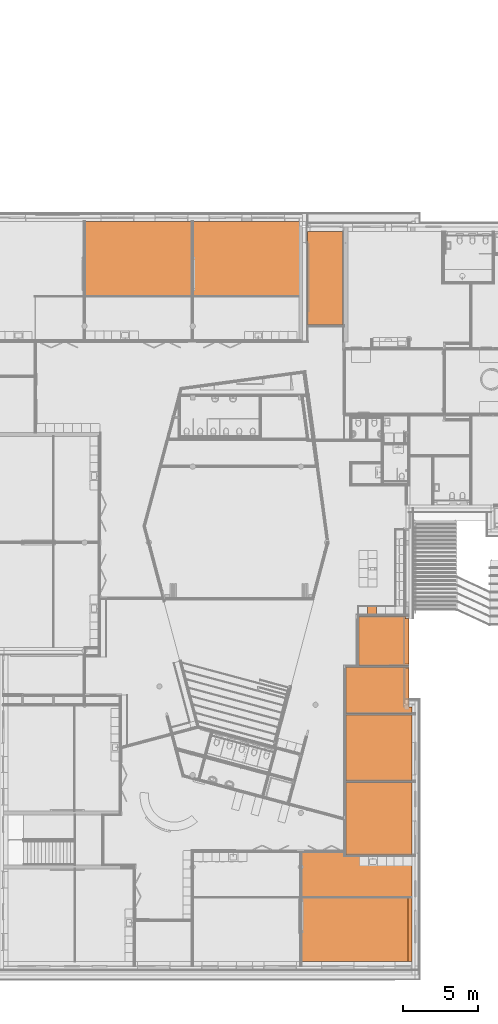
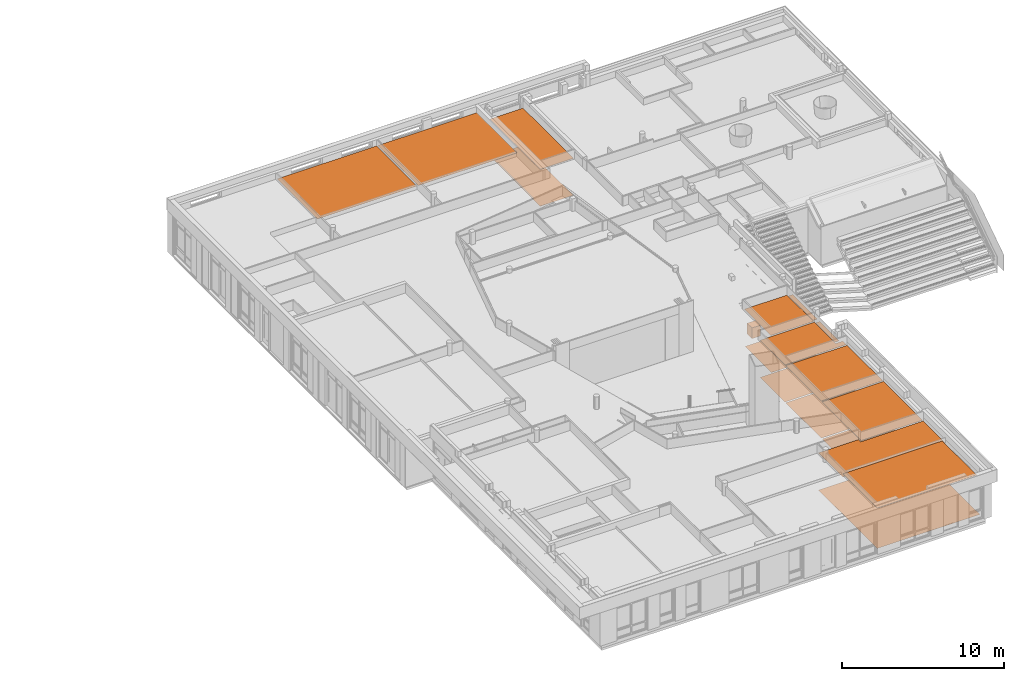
# One storey, part 135 of 167: 17 proxies.
"""IFC2X3 building model written with IfcOpenShell, lengths in millimetres."""

from ifc_helpers import new_model, entity, si_unit, converted_unit, derived_unit, money_unit, direction, frame, origin_with_axes, place, context, subcontext, project, spatial, faceted_brep, material, type_object, element, save


model = new_model("IFC2X3")

# Units and contexts
model_context = context("Model", 3, precision=0.01, world=origin_with_axes(), true_north=direction((0.0, 1.0)))
plan_context = context("Plan", 3, precision=0.01, world=origin_with_axes(), true_north=direction((0.0, 1.0)))
body_context = subcontext(model_context, "Body", "Model", "MODEL_VIEW")
ifc_project = project(units=[si_unit("LENGTHUNIT", "METRE", prefix="MILLI"), si_unit("AREAUNIT", "SQUARE_METRE"), si_unit("VOLUMEUNIT", "CUBIC_METRE"), converted_unit("PLANEANGLEUNIT", "DEGREE", entity("IfcPlaneAngleMeasure", 0.0174532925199), si_unit("PLANEANGLEUNIT", "RADIAN"), dimensions=[0, 0, 0, 0, 0, 0, 0]), si_unit("SOLIDANGLEUNIT", "STERADIAN"), money_unit("EUR"), converted_unit("TIMEUNIT", "Year", entity("IfcTimeMeasure", 31556926.0), si_unit("TIMEUNIT", "SECOND"), dimensions=[0, 0, 1, 0, 0, 0, 0]), si_unit("MASSUNIT", "GRAM", prefix="KILO"), si_unit("THERMODYNAMICTEMPERATUREUNIT", "DEGREE_CELSIUS"), si_unit("LUMINOUSINTENSITYUNIT", "LUMEN"), si_unit("ENERGYUNIT", "JOULE", prefix="MEGA"), derived_unit("THERMALCONDUCTANCEUNIT", [(si_unit("POWERUNIT", "WATT"), 1), (si_unit("LENGTHUNIT", "METRE"), -1), (si_unit("THERMODYNAMICTEMPERATUREUNIT", "KELVIN"), -1)]), derived_unit("SPECIFICHEATCAPACITYUNIT", [(si_unit("ENERGYUNIT", "JOULE"), 1), (si_unit("MASSUNIT", "GRAM", prefix="KILO"), -1), (si_unit("THERMODYNAMICTEMPERATUREUNIT", "KELVIN"), -1)]), derived_unit("MASSDENSITYUNIT", [(si_unit("MASSUNIT", "GRAM", prefix="KILO"), 1), (si_unit("VOLUMEUNIT", "CUBIC_METRE"), -1)])], contexts=[model_context, plan_context])

# Site, building, storey
site_placement = place(None, origin_with_axes())
site = spatial("IfcSite", under=ifc_project, at=site_placement, Name="Site", CompositionType="ELEMENT")
building_placement = place(site_placement, origin_with_axes())
building = spatial("IfcBuilding", under=site, at=building_placement, Name="Naam gebouw", CompositionType="ELEMENT")
storey_placement = place(building_placement, origin_with_axes())
storey = spatial("IfcBuildingStorey", under=building, at=storey_placement, Name="Begane grond", CompositionType="ELEMENT", Elevation=0.0)

# Proxies
ifc_material_1 = material(Name="ALG - BINNENAFWERKING")
building_element_proxy_type_1 = type_object("IfcBuildingElementProxyType", Name="ALG - BINNENAFWERKING 10", PredefinedType="NOTDEFINED")
proxy_1_placement = place(storey_placement, frame((21650.0, 5173.34783859, 2800.0), z_axis=(0.0, 0.0, 1.0), x_axis=(1.0, 0.0, 0.0)))
element("IfcBuildingElementProxy", 1, at=proxy_1_placement, inside=storey, type_object=building_element_proxy_type_1, material=ifc_material_1, Name="23__Vloer-x", context=body_context, shape_type="Brep", body=[
    faceted_brep([(0.0, 0.0, 10.0), (0.0, 0.0, 0.0), (7336.0, 0.0, 0.0), (7336.0, 0.0, 10.0), (0.0, 3000.00005448, 10.0), (0.0, 3000.00005448, 0.0), (2849.99994791, 3000.00005448, 0.0), (2849.99994791, 2726.65215566, 0.0), (7336.0, 2726.65215566, 0.0), (7336.0, 2726.65215566, 10.0), (2849.99994791, 2726.65215566, 10.0), (2849.99994791, 3000.00005448, 10.0)], [[[0, 1, 2, 3]], [[4, 5, 1, 0]], [[1, 5, 6, 7, 8, 2]], [[3, 2, 8, 9]], [[0, 3, 9, 10, 11, 4]], [[11, 6, 5, 4]], [[10, 7, 6, 11]], [[9, 8, 7, 10]]]),
])
proxy_2_placement = place(storey_placement, frame((21650.0, 5173.34783859, 3050.0), z_axis=(0.0, 0.0, 1.0), x_axis=(1.0, 0.0, 0.0)))
element("IfcBuildingElementProxy", 2, at=proxy_2_placement, inside=storey, type_object=building_element_proxy_type_1, material=ifc_material_1, Name="23__Vloer-x", context=body_context, shape_type="Brep", body=[
    faceted_brep([(7100.0, -4273.34783859, 0.0), (7100.0, -25.0, 0.0), (7100.0, -25.0, 10.0), (7100.0, -4273.34783859, 10.0), (0.0, -4273.34783859, 0.0), (0.0, -25.0, 0.0), (0.0, -25.0, 10.0), (0.0, -4273.34783859, 10.0)], [[[0, 1, 2, 3]], [[4, 5, 1, 0]], [[5, 6, 2, 1]], [[3, 2, 6, 7]], [[3, 7, 4, 0]], [[7, 6, 5, 4]]]),
])
proxy_3_placement = place(storey_placement, frame((25434.4423139, 20600.0, 2800.0), z_axis=(0.0, 0.0, 1.0), x_axis=(1.0, 0.0, 0.0)))
element("IfcBuildingElementProxy", 3, at=proxy_3_placement, inside=storey, type_object=building_element_proxy_type_1, material=ifc_material_1, Name="23__Vloer-x", context=body_context, shape_type="Brep", body=[
    faceted_brep([(3065.74775346, 3279.23228815, 10.0), (3058.0721976, 3279.23228815, 10.0), (3065.71860625, 0.0, 10.0), (3065.74775346, 0.0, 10.0), (3065.74775346, 3279.23228815, 0.0), (3058.0721976, 3279.23228815, 0.0), (0.0, 3279.23228815, 0.0), (0.0, 3279.23228815, 10.0), (3065.71860625, 0.0, 0.0), (3065.74775346, 0.0, 0.0), (3033.07226557, 3279.17399411, 0.0), (3040.71853829, 0.0, 0.0), (0.0, 0.0, 0.0), (0.0, 0.0, 10.0), (3040.71853829, 0.0, 10.0), (3033.07226557, 3279.17399411, 10.0)], [[[0, 1, 2, 3]], [[1, 0, 4, 5, 6, 7]], [[5, 8, 2, 1]], [[3, 2, 8, 9]], [[0, 3, 9, 4]], [[9, 8, 5, 4]], [[5, 10, 11, 12, 6]], [[13, 7, 6, 12]], [[14, 15, 1, 7, 13]], [[5, 1, 15, 10]], [[10, 15, 14, 11]], [[12, 11, 14, 13]]]),
])
proxy_4_placement = place(storey_placement, frame((24600.0, 8001.81123862, 2800.0), z_axis=(0.0, 0.0, 1.0), x_axis=(1.0, 0.0, 0.0)))
element("IfcBuildingElementProxy", 4, at=proxy_4_placement, inside=storey, type_object=building_element_proxy_type_1, material=ifc_material_1, Name="23__Vloer-x", context=body_context, shape_type="Brep", body=[
    faceted_brep([(0.0, 0.0, 10.0), (4386.0, 0.0, 10.0), (4386.0, 4823.18869358, 10.0), (0.0, 4823.18869358, 10.0), (0.0, 0.0, 0.0), (4386.0, 0.0, 0.0), (4386.0, 4823.18869358, 0.0), (0.0, 4823.18869358, 0.0)], [[[0, 1, 2, 3]], [[1, 0, 4, 5]], [[6, 2, 1, 5]], [[3, 2, 6, 7]], [[0, 3, 7, 4]], [[7, 6, 5, 4]]]),
    faceted_brep([(0.0, 9323.18881801, 0.0), (4386.0, 9323.18881801, 0.0), (4386.0, 4923.18879193, 0.0), (0.0, 4923.18879193, 0.0), (0.0, 9323.18881801, 10.0), (4386.0, 9323.18881801, 10.0), (4386.0, 4923.18879193, 10.0), (0.0, 4923.18879193, 10.0)], [[[0, 1, 2, 3]], [[4, 5, 1, 0]], [[2, 1, 5, 6]], [[6, 7, 3, 2]], [[7, 4, 0, 3]], [[7, 6, 5, 4]]]),
])
proxy_5_placement = place(storey_placement, frame((24600.0, 17424.999968, 2800.0), z_axis=(0.0, 0.0, 1.0), x_axis=(1.0, 0.0, 0.0)))
element("IfcBuildingElementProxy", 5, at=proxy_5_placement, inside=storey, type_object=building_element_proxy_type_1, material=ifc_material_1, Name="23__Vloer-x", context=body_context, shape_type="Brep", body=[
    faceted_brep([(4386.0, 0.0, 0.0), (4386.0, 425.000032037, 0.0), (4386.0, 425.000032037, 10.0), (4386.0, 0.0, 10.0), (4200.0, 426.683809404, 0.0), (4200.0, 425.000032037, 0.0), (0.0, 0.0, 0.0), (0.0, 3075.00003204, 0.0), (3875.39402899, 3075.00003204, 0.0), (3881.57067578, 426.08856324, 0.0), (3906.57060781, 426.14685728, 0.0), (3906.56679546, 427.781821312, 0.0), (4200.0, 425.000032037, 10.0), (4200.0, 426.683809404, 10.0), (3906.56679546, 427.781821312, 10.0), (3906.57060781, 426.14685728, 10.0), (3881.57067578, 426.08856324, 10.0), (3875.39402899, 3075.00003204, 10.0), (0.0, 3075.00003204, 10.0), (0.0, 0.0, 10.0)], [[[0, 1, 2, 3]], [[4, 5, 1, 0, 6, 7, 8, 9, 10, 11]], [[5, 12, 2, 1]], [[2, 12, 13, 14, 15, 16, 17, 18, 19, 3]], [[6, 0, 3, 19]], [[5, 4, 13, 12]], [[19, 18, 7, 6]], [[18, 17, 8, 7]], [[8, 17, 16, 9]], [[9, 16, 15, 10]], [[10, 15, 14, 11]], [[14, 13, 4, 11]]]),
])
proxy_6_placement = place(storey_placement, frame((7249.99992932, 45199.9999917, 3050.0), z_axis=(0.0, 0.0, 1.0), x_axis=(1.0, 0.0, 0.0)))
element("IfcBuildingElementProxy", 6, at=proxy_6_placement, inside=storey, type_object=building_element_proxy_type_1, material=ifc_material_1, Name="23__Vloer-x", context=body_context, shape_type="Brep", body=[
    faceted_brep([(0.0, 0.0, 10.0), (0.0, 0.0, 0.0), (7100.00015998, 0.0, 0.0), (7100.00015998, 0.0, 10.0), (0.0, 4985.99998215, 10.0), (0.0, 4985.99998215, 0.0), (7100.00015998, 4985.99998215, 0.0), (7100.00015998, 4985.99998215, 10.0)], [[[0, 1, 2, 3]], [[4, 5, 1, 0]], [[2, 1, 5, 6]], [[3, 2, 6, 7]], [[4, 0, 3, 7]], [[7, 6, 5, 4]]]),
])
proxy_7_placement = place(storey_placement, frame((21511.0, 50185.9999738, 3050.0), z_axis=(0.0, 0.0, 1.0), x_axis=(1.0, 0.0, 0.0)))
element("IfcBuildingElementProxy", 7, at=proxy_7_placement, inside=storey, type_object=building_element_proxy_type_1, material=ifc_material_1, Name="23__Vloer-x", context=body_context, shape_type="Brep", body=[
    faceted_brep([(0.0, 0.0, 10.0), (0.0, 0.0, 0.0), (-7061.00005809, 0.0, 0.0), (-7061.00005809, 0.0, 10.0), (0.0, -4985.99998215, 10.0), (0.0, -4985.99998215, 0.0), (-7061.00005809, -4985.99998215, 0.0), (-7061.00005809, -4985.99998215, 10.0)], [[[0, 1, 2, 3]], [[4, 5, 1, 0]], [[2, 1, 5, 6]], [[3, 2, 6, 7]], [[4, 0, 3, 7]], [[7, 6, 5, 4]]]),
])
proxy_8_placement = place(storey_placement, frame((22049.0, 49500.0000073, 2800.0), z_axis=(0.0, 0.0, 1.0), x_axis=(1.0, 0.0, 0.0)))
element("IfcBuildingElementProxy", 8, at=proxy_8_placement, inside=storey, type_object=building_element_proxy_type_1, material=ifc_material_1, Name="23__Vloer-x", context=body_context, shape_type="Brep", body=[
    faceted_brep([(0.0, 0.0, 10.0), (0.0, 0.0, 0.0), (0.0, -6250.00000732, 0.0), (0.0, -6250.00000732, 10.0), (2366.00000919, -5.67535352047e-06, 10.0), (2366.00000919, -5.67535352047e-06, 0.0), (2366.00000919, -6250.00000732, 0.0), (2366.00000919, -6250.00000732, 10.0)], [[[0, 1, 2, 3]], [[4, 5, 1, 0]], [[2, 1, 5, 6]], [[3, 2, 6, 7]], [[4, 0, 3, 7]], [[7, 6, 5, 4]]]),
])
proxy_9_placement = place(storey_placement, frame((28500.0, 18000.0, 2800.0), z_axis=(0.0, 0.0, 1.0), x_axis=(1.0, 0.0, 0.0)))
element("IfcBuildingElementProxy", 9, at=proxy_9_placement, inside=storey, type_object=building_element_proxy_type_1, material=ifc_material_1, Name="23__Vloer-x", context=body_context, shape_type="Brep", body=[
    faceted_brep([(300.0, 2400.0, 10.0), (0.627273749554, 2400.0, 10.0), (6.22351675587, 0.0, 10.0), (300.0, 0.0, 10.0), (300.0, 2400.0, 0.0), (0.627273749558, 2400.0, 0.0), (6.22351675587, 0.0, 0.0), (300.0, 0.0, 0.0)], [[[0, 1, 2, 3]], [[4, 5, 1, 0]], [[5, 6, 2, 1]], [[3, 2, 6, 7]], [[0, 3, 7, 4]], [[7, 6, 5, 4]]]),
])
proxy_10_placement = place(storey_placement, frame((28500.0, 20700.0, 2800.0), z_axis=(0.0, 0.0, 1.0), x_axis=(1.0, 0.0, 0.0)))
element("IfcBuildingElementProxy", 10, at=proxy_10_placement, inside=storey, type_object=building_element_proxy_type_1, material=ifc_material_1, Name="23__Vloer-x", context=body_context, shape_type="Brep", body=[
    faceted_brep([(0.0, 0.0, 10.0), (0.0, 0.0, 0.0), (300.0, 0.0, 0.0), (300.0, 0.0, 10.0), (0.0, 3051.78650008, 10.0), (0.0, 3051.78650008, 0.0), (300.0, 3051.78650008, 0.0), (300.0, 3051.78650008, 10.0)], [[[0, 1, 2, 3]], [[4, 5, 1, 0]], [[2, 1, 5, 6]], [[3, 2, 6, 7]], [[4, 0, 3, 7]], [[7, 6, 5, 4]]]),
])
building_element_proxy_type_2 = type_object("IfcBuildingElementProxyType", Name="Kast basis vaatwasser 24", PredefinedType="NOTDEFINED")
proxy_11_placement = place(storey_placement, frame((26625.0, 24566.7322881, 317.097540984), z_axis=(0.0, 0.0, 1.0), x_axis=(-1.0, 0.0, 0.0)))
element("IfcBuildingElementProxy", 11, at=proxy_11_placement, inside=storey, type_object=building_element_proxy_type_2, Name="__Object-x", context=body_context, shape_type="Brep", body=[
    faceted_brep([(0.0, 20.0, 790.0), (20.0, 20.0, 790.0), (20.0, 20.0, 810.0), (0.0, 20.0, 810.0), (0.0, 600.0, 790.0), (20.0, 600.0, 790.0), (580.0, 600.0, 790.0), (600.0, 600.0, 790.0), (600.0, 20.0, 790.0), (580.0, 20.0, 790.0), (580.0, 20.0, 810.0), (600.0, 20.0, 810.0), (600.0, 600.0, 810.0), (580.0, 600.0, 810.0), (20.0, 600.0, 810.0), (0.0, 600.0, 810.0)], [[[0, 1, 2, 3]], [[0, 4, 5, 6, 7, 8, 9, 1]], [[1, 9, 10, 2]], [[3, 2, 10, 11, 12, 13, 14, 15]], [[4, 0, 3, 15]], [[5, 4, 15, 14]], [[6, 5, 14, 13]], [[7, 6, 13, 12]], [[8, 7, 12, 11]], [[9, 8, 11, 10]]]),
    faceted_brep([(0.0, 20.0, 0.0), (20.0, 20.0, 0.0), (20.0, 20.0, 20.0), (0.0, 20.0, 20.0), (0.0, 600.0, 0.0), (20.0, 600.0, 0.0), (580.0, 600.0, 0.0), (600.0, 600.0, 0.0), (600.0, 20.0, 0.0), (580.0, 20.0, 0.0), (580.0, 20.0, 20.0), (600.0, 20.0, 20.0), (600.0, 600.0, 20.0), (580.0, 600.0, 20.0), (20.0, 600.0, 20.0), (0.0, 600.0, 20.0)], [[[0, 1, 2, 3]], [[0, 4, 5, 6, 7, 8, 9, 1]], [[1, 9, 10, 2]], [[3, 2, 10, 11, 12, 13, 14, 15]], [[4, 0, 3, 15]], [[5, 4, 15, 14]], [[6, 5, 14, 13]], [[7, 6, 13, 12]], [[8, 7, 12, 11]], [[9, 8, 11, 10]]]),
    faceted_brep([(0.0, 20.0, 20.0), (20.0, 20.0, 20.0), (20.0, 20.0, 790.0), (0.0, 20.0, 790.0), (0.0, 600.0, 20.0), (600.0, 600.0, 20.0), (600.0, 20.0, 20.0), (580.0, 20.0, 20.0), (580.0, 580.0, 20.0), (20.0, 580.0, 20.0), (20.0, 580.0, 790.0), (580.0, 580.0, 790.0), (580.0, 20.0, 790.0), (600.0, 20.0, 790.0), (600.0, 600.0, 790.0), (0.0, 600.0, 790.0)], [[[0, 1, 2, 3]], [[0, 4, 5, 6, 7, 8, 9, 1]], [[1, 9, 10, 2]], [[3, 2, 10, 11, 12, 13, 14, 15]], [[4, 0, 3, 15]], [[5, 4, 15, 14]], [[6, 5, 14, 13]], [[7, 6, 13, 12]], [[8, 7, 12, 11]], [[9, 8, 11, 10]]]),
    faceted_brep([(0.0, 20.0, 698.571428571), (600.0, 20.0, 698.571428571), (600.0, 0.0, 698.571428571), (0.0, 0.0, 698.571428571), (0.0, 20.0, 810.0), (600.0, 20.0, 810.0), (240.0, 20.0, 698.571428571), (360.0, 20.0, 698.571428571), (360.0, 20.0, 772.857142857), (240.0, 20.0, 772.857142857), (600.0, 0.0, 810.0), (0.0, 0.0, 810.0), (240.0, 0.0, 698.571428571), (240.0, 0.0, 772.857142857), (360.0, 0.0, 772.857142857), (360.0, 0.0, 698.571428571)], [[[0, 1, 2, 3]], [[0, 4, 5, 1], [6, 7, 8, 9]], [[1, 5, 10, 2]], [[3, 2, 10, 11], [12, 13, 14, 15]], [[4, 0, 3, 11]], [[5, 4, 11, 10]], [[7, 6, 12, 15]], [[8, 7, 15, 14]], [[9, 8, 14, 13]], [[6, 9, 13, 12]]]),
    faceted_brep([(0.0, 20.0, 680.0), (600.0, 20.0, 680.0), (600.0, 5.0, 680.0), (0.0, 5.0, 680.0), (0.0, 20.0, 698.571428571), (600.0, 20.0, 698.571428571), (600.0, 5.0, 698.571428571), (0.0, 5.0, 698.571428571)], [[[0, 1, 2, 3]], [[0, 4, 5, 1]], [[1, 5, 6, 2]], [[3, 2, 6, 7]], [[4, 0, 3, 7]], [[5, 4, 7, 6]]]),
    faceted_brep([(0.0, 5.0, 680.0), (600.0, 5.0, 680.0), (600.0, 0.0, 680.0), (0.0, 0.0, 680.0), (0.0, 5.0, 684.642857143), (600.0, 5.0, 684.642857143), (600.0, 0.0, 684.642857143), (0.0, 0.0, 684.642857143)], [[[0, 1, 2, 3]], [[0, 4, 5, 1]], [[1, 5, 6, 2]], [[3, 2, 6, 7]], [[4, 0, 3, 7]], [[5, 4, 7, 6]]]),
    faceted_brep([(0.0, 5.0, 689.285714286), (600.0, 5.0, 689.285714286), (600.0, 0.0, 689.285714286), (0.0, 0.0, 689.285714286), (0.0, 5.0, 693.928571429), (600.0, 5.0, 693.928571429), (600.0, 0.0, 693.928571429), (0.0, 0.0, 693.928571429)], [[[0, 1, 2, 3]], [[0, 4, 5, 1]], [[1, 5, 6, 2]], [[3, 2, 6, 7]], [[4, 0, 3, 7]], [[5, 4, 7, 6]]]),
    faceted_brep([(240.0, 20.0, 698.571428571), (360.0, 20.0, 698.571428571), (360.0, 10.0, 698.571428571), (240.0, 10.0, 698.571428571), (240.0, 20.0, 772.857142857), (360.0, 20.0, 772.857142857), (360.0, 10.0, 772.857142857), (240.0, 10.0, 772.857142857)], [[[0, 1, 2, 3]], [[0, 4, 5, 1]], [[1, 5, 6, 2]], [[3, 2, 6, 7]], [[4, 0, 3, 7]], [[5, 4, 7, 6]]]),
    faceted_brep([(240.0, 10.0, 698.571428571), (360.0, 10.0, 698.571428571), (360.0, 0.0, 698.571428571), (240.0, 0.0, 698.571428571), (240.0, 10.0, 772.857142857), (360.0, 10.0, 772.857142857), (245.0, 10.0, 703.571428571), (355.0, 10.0, 703.571428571), (355.0, 10.0, 767.857142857), (245.0, 10.0, 767.857142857), (360.0, 0.0, 772.857142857), (240.0, 0.0, 772.857142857), (245.0, 0.0, 703.571428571), (245.0, 0.0, 767.857142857), (355.0, 0.0, 767.857142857), (355.0, 0.0, 703.571428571)], [[[0, 1, 2, 3]], [[0, 4, 5, 1], [6, 7, 8, 9]], [[1, 5, 10, 2]], [[3, 2, 10, 11], [12, 13, 14, 15]], [[4, 0, 3, 11]], [[5, 4, 11, 10]], [[7, 6, 12, 15]], [[8, 7, 15, 14]], [[9, 8, 14, 13]], [[6, 9, 13, 12]]]),
    faceted_brep([(240.0, 0.0, 735.714285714), (360.0, 0.0, 735.714285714), (360.0, -5.0, 735.714285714), (240.0, -5.0, 735.714285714), (240.0, 0.0, 772.857142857), (360.0, 0.0, 772.857142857), (360.0, -5.0, 772.857142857), (240.0, -5.0, 772.857142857)], [[[0, 1, 2, 3]], [[0, 4, 5, 1]], [[1, 5, 6, 2]], [[3, 2, 6, 7]], [[4, 0, 3, 7]], [[5, 4, 7, 6]]]),
    faceted_brep([(137.157762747, 0.0, 728.607307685), (133.131983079, 0.0, 722.582302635), (127.10697803, 0.0, 718.556522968), (120.0, 0.0, 717.142857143), (112.89302197, 0.0, 718.556522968), (106.868016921, 0.0, 722.582302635), (102.842237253, 0.0, 728.607307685), (101.428571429, 0.0, 735.714285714), (102.842237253, 0.0, 742.821263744), (106.868016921, 0.0, 748.846268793), (112.89302197, 0.0, 752.872048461), (120.0, 0.0, 754.285714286), (127.10697803, 0.0, 752.872048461), (133.131983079, 0.0, 748.846268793), (137.157762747, 0.0, 742.821263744), (138.571428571, 0.0, 735.714285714), (137.157762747, -20.0, 728.607307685), (133.131983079, -20.0, 722.582302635), (127.10697803, -20.0, 718.556522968), (120.0, -20.0, 717.142857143), (112.89302197, -20.0, 718.556522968), (106.868016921, -20.0, 722.582302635), (102.842237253, -20.0, 728.607307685), (101.428571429, -20.0, 735.714285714), (102.842237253, -20.0, 742.821263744), (106.868016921, -20.0, 748.846268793), (112.89302197, -20.0, 752.872048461), (120.0, -20.0, 754.285714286), (127.10697803, -20.0, 752.872048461), (133.131983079, -20.0, 748.846268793), (137.157762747, -20.0, 742.821263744), (138.571428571, -20.0, 735.714285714)], [[[0, 1, 2, 3, 4, 5, 6, 7, 8, 9, 10, 11, 12, 13, 14, 15]], [[1, 0, 16, 17]], [[2, 1, 17, 18]], [[3, 2, 18, 19]], [[4, 3, 19, 20]], [[5, 4, 20, 21]], [[6, 5, 21, 22]], [[7, 6, 22, 23]], [[8, 7, 23, 24]], [[9, 8, 24, 25]], [[10, 9, 25, 26]], [[11, 10, 26, 27]], [[12, 11, 27, 28]], [[13, 12, 28, 29]], [[14, 13, 29, 30]], [[15, 14, 30, 31]], [[0, 15, 31, 16]], [[16, 31, 30, 29, 28, 27, 26, 25, 24, 23, 22, 21, 20, 19, 18, 17]]]),
    faceted_brep([(428.578881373, 0.0, 732.160796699), (426.56599154, 0.0, 729.148294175), (423.553489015, 0.0, 727.135404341), (420.0, 0.0, 726.428571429), (416.446510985, 0.0, 727.135404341), (413.43400846, 0.0, 729.148294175), (411.421118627, 0.0, 732.160796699), (410.714285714, 0.0, 735.714285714), (411.421118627, 0.0, 739.267774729), (413.43400846, 0.0, 742.280277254), (416.446510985, 0.0, 744.293167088), (420.0, 0.0, 745.0), (423.553489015, 0.0, 744.293167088), (426.56599154, 0.0, 742.280277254), (428.578881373, 0.0, 739.267774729), (429.285714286, 0.0, 735.714285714), (428.578881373, -15.0, 732.160796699), (426.56599154, -15.0, 729.148294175), (423.553489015, -15.0, 727.135404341), (420.0, -15.0, 726.428571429), (416.446510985, -15.0, 727.135404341), (413.43400846, -15.0, 729.148294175), (411.421118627, -15.0, 732.160796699), (410.714285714, -15.0, 735.714285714), (411.421118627, -15.0, 739.267774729), (413.43400846, -15.0, 742.280277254), (416.446510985, -15.0, 744.293167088), (420.0, -15.0, 745.0), (423.553489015, -15.0, 744.293167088), (426.56599154, -15.0, 742.280277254), (428.578881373, -15.0, 739.267774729), (429.285714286, -15.0, 735.714285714)], [[[0, 1, 2, 3, 4, 5, 6, 7, 8, 9, 10, 11, 12, 13, 14, 15]], [[1, 0, 16, 17]], [[2, 1, 17, 18]], [[3, 2, 18, 19]], [[4, 3, 19, 20]], [[5, 4, 20, 21]], [[6, 5, 21, 22]], [[7, 6, 22, 23]], [[8, 7, 23, 24]], [[9, 8, 24, 25]], [[10, 9, 25, 26]], [[11, 10, 26, 27]], [[12, 11, 27, 28]], [[13, 12, 28, 29]], [[14, 13, 29, 30]], [[15, 14, 30, 31]], [[0, 15, 31, 16]], [[16, 31, 30, 29, 28, 27, 26, 25, 24, 23, 22, 21, 20, 19, 18, 17]]]),
    faceted_brep([(488.578881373, 0.0, 732.160796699), (486.56599154, 0.0, 729.148294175), (483.553489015, 0.0, 727.135404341), (480.0, 0.0, 726.428571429), (476.446510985, 0.0, 727.135404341), (473.43400846, 0.0, 729.148294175), (471.421118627, 0.0, 732.160796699), (470.714285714, 0.0, 735.714285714), (471.421118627, 0.0, 739.267774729), (473.43400846, 0.0, 742.280277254), (476.446510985, 0.0, 744.293167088), (480.0, 0.0, 745.0), (483.553489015, 0.0, 744.293167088), (486.56599154, 0.0, 742.280277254), (488.578881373, 0.0, 739.267774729), (489.285714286, 0.0, 735.714285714), (488.578881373, -15.0, 732.160796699), (486.56599154, -15.0, 729.148294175), (483.553489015, -15.0, 727.135404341), (480.0, -15.0, 726.428571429), (476.446510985, -15.0, 727.135404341), (473.43400846, -15.0, 729.148294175), (471.421118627, -15.0, 732.160796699), (470.714285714, -15.0, 735.714285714), (471.421118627, -15.0, 739.267774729), (473.43400846, -15.0, 742.280277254), (476.446510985, -15.0, 744.293167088), (480.0, -15.0, 745.0), (483.553489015, -15.0, 744.293167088), (486.56599154, -15.0, 742.280277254), (488.578881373, -15.0, 739.267774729), (489.285714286, -15.0, 735.714285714)], [[[0, 1, 2, 3, 4, 5, 6, 7, 8, 9, 10, 11, 12, 13, 14, 15]], [[1, 0, 16, 17]], [[2, 1, 17, 18]], [[3, 2, 18, 19]], [[4, 3, 19, 20]], [[5, 4, 20, 21]], [[6, 5, 21, 22]], [[7, 6, 22, 23]], [[8, 7, 23, 24]], [[9, 8, 24, 25]], [[10, 9, 25, 26]], [[11, 10, 26, 27]], [[12, 11, 27, 28]], [[13, 12, 28, 29]], [[14, 13, 29, 30]], [[15, 14, 30, 31]], [[0, 15, 31, 16]], [[16, 31, 30, 29, 28, 27, 26, 25, 24, 23, 22, 21, 20, 19, 18, 17]]]),
    faceted_brep([(548.578881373, 0.0, 732.160796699), (546.56599154, 0.0, 729.148294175), (543.553489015, 0.0, 727.135404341), (540.0, 0.0, 726.428571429), (536.446510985, 0.0, 727.135404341), (533.43400846, 0.0, 729.148294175), (531.421118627, 0.0, 732.160796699), (530.714285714, 0.0, 735.714285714), (531.421118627, 0.0, 739.267774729), (533.43400846, 0.0, 742.280277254), (536.446510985, 0.0, 744.293167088), (540.0, 0.0, 745.0), (543.553489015, 0.0, 744.293167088), (546.56599154, 0.0, 742.280277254), (548.578881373, 0.0, 739.267774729), (549.285714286, 0.0, 735.714285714), (548.578881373, -15.0, 732.160796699), (546.56599154, -15.0, 729.148294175), (543.553489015, -15.0, 727.135404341), (540.0, -15.0, 726.428571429), (536.446510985, -15.0, 727.135404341), (533.43400846, -15.0, 729.148294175), (531.421118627, -15.0, 732.160796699), (530.714285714, -15.0, 735.714285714), (531.421118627, -15.0, 739.267774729), (533.43400846, -15.0, 742.280277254), (536.446510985, -15.0, 744.293167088), (540.0, -15.0, 745.0), (543.553489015, -15.0, 744.293167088), (546.56599154, -15.0, 742.280277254), (548.578881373, -15.0, 739.267774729), (549.285714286, -15.0, 735.714285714)], [[[0, 1, 2, 3, 4, 5, 6, 7, 8, 9, 10, 11, 12, 13, 14, 15]], [[1, 0, 16, 17]], [[2, 1, 17, 18]], [[3, 2, 18, 19]], [[4, 3, 19, 20]], [[5, 4, 20, 21]], [[6, 5, 21, 22]], [[7, 6, 22, 23]], [[8, 7, 23, 24]], [[9, 8, 24, 25]], [[10, 9, 25, 26]], [[11, 10, 26, 27]], [[12, 11, 27, 28]], [[13, 12, 28, 29]], [[14, 13, 29, 30]], [[15, 14, 30, 31]], [[0, 15, 31, 16]], [[16, 31, 30, 29, 28, 27, 26, 25, 24, 23, 22, 21, 20, 19, 18, 17]]]),
    faceted_brep([(1.5, 20.0, 1.5), (598.5, 20.0, 1.5), (598.5, 0.0, 1.5), (1.5, 0.0, 1.5), (1.5, 20.0, 678.5), (598.5, 20.0, 678.5), (598.5, 0.0, 678.5), (1.5, 0.0, 678.5)], [[[0, 1, 2, 3]], [[0, 4, 5, 1]], [[1, 5, 6, 2]], [[3, 2, 6, 7]], [[4, 0, 3, 7]], [[5, 4, 7, 6]]]),
])
ifc_material_2 = material(Name="_TenW_43_A2 Forbo Impressa")
building_element_proxy_type_3 = type_object("IfcBuildingElementProxyType", Name="_TenW_43_A2 Forbo Impressa 2", PredefinedType="NOTDEFINED")
proxy_12_placement = place(storey_placement, frame((24600.0, 17425.0, 0.0), z_axis=(0.0, 0.0, 1.0), x_axis=(1.0, 0.0, 0.0)))
element("IfcBuildingElementProxy", 12, at=proxy_12_placement, inside=storey, type_object=building_element_proxy_type_3, material=ifc_material_2, Name="23__Vloer-x", context=body_context, shape_type="Brep", body=[
    faceted_brep([(4386.0, 0.0, 0.0), (4386.0, 425.0, 0.0), (4386.0, 425.0, 2.0), (4386.0, 0.0, 2.0), (4200.0, 436.268239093, 0.0), (4200.0, 425.0, 0.0), (0.0, 0.0, 0.0), (0.0, 3075.0, 0.0), (4200.0, 3075.0, 0.0), (4200.0, 425.0, 2.0), (4200.0, 436.268239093, 2.0), (4200.0, 3075.0, 2.0), (0.0, 3075.0, 2.0), (0.0, 0.0, 2.0)], [[[0, 1, 2, 3]], [[4, 5, 1, 0, 6, 7, 8]], [[5, 9, 2, 1]], [[2, 9, 10, 11, 12, 13, 3]], [[3, 13, 6, 0]], [[5, 4, 10, 9]], [[13, 12, 7, 6]], [[12, 11, 8, 7]], [[11, 10, 4, 8]]]),
])
proxy_13_placement = place(storey_placement, frame((28986.0, 17324.9999815, 0.0), z_axis=(0.0, 0.0, 1.0), x_axis=(1.0, 0.0, 0.0)))
element("IfcBuildingElementProxy", 13, at=proxy_13_placement, inside=storey, type_object=building_element_proxy_type_3, material=ifc_material_2, Name="23__Vloer-x", context=body_context, shape_type="Brep", body=[
    faceted_brep([(0.0, 0.0, 2.0), (0.0, 0.0, 0.0), (-4386.0, 0.0, 0.0), (-4386.0, 0.0, 2.0), (0.0, -4399.99998149, 2.0), (0.0, -4399.99998149, 0.0), (-4386.0, -4399.99998149, 0.0), (-4386.0, -4399.99998149, 2.0)], [[[0, 1, 2, 3]], [[4, 5, 1, 0]], [[2, 1, 5, 6]], [[3, 2, 6, 7]], [[0, 3, 7, 4]], [[7, 6, 5, 4]]]),
])
proxy_14_placement = place(storey_placement, frame((28986.0, 12825.0, 0.0), z_axis=(0.0, 0.0, 1.0), x_axis=(1.0, 0.0, 0.0)))
element("IfcBuildingElementProxy", 14, at=proxy_14_placement, inside=storey, type_object=building_element_proxy_type_3, material=ifc_material_2, Name="23__Vloer-x", context=body_context, shape_type="Brep", body=[
    faceted_brep([(-4386.0, 0.0, 2.0), (0.0, 0.0, 2.0), (0.0, 0.0, 0.0), (-4386.0, 0.0, 0.0), (0.0, -4825.0, 2.0), (-4386.0, -4825.0, 2.0), (0.0, -4825.0, 0.0), (-4386.0, -4825.0, 0.0)], [[[0, 1, 2, 3]], [[4, 1, 0, 5]], [[1, 4, 6, 2]], [[7, 3, 2, 6]], [[5, 0, 3, 7]], [[4, 5, 7, 6]]]),
])
ifc_material_3 = material(Name="_TenW_43_Schoonlooptapijt_Coral Duo")
building_element_proxy_type_4 = type_object("IfcBuildingElementProxyType", Name="_TenW_43_Schoonlooptapijt_Coral Duo 2", PredefinedType="NOTDEFINED")
proxy_15_placement = place(storey_placement, frame((25459.4423139, 23879.2322881, 0.0), z_axis=(0.0, 0.0, 1.0), x_axis=(1.0, 0.0, 0.0)))
element("IfcBuildingElementProxy", 15, at=proxy_15_placement, inside=storey, type_object=building_element_proxy_type_4, material=ifc_material_3, Name="23__Vloer-x", context=body_context, shape_type="Brep", body=[
    faceted_brep([(0.0, -3279.23228815, 2.0), (2100.0, -3279.23228815, 2.0), (2100.0, -3259.23228815, 2.0), (3040.55768609, -3259.23228815, 2.0), (3040.55768609, -3279.23228815, 2.0), (3340.55768609, -3279.23228815, 2.0), (3340.55768609, -127.445788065, 2.0), (3126.55768609, -127.445788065, 2.0), (3126.55768609, -20.0, 2.0), (0.0, -20.0, 2.0), (0.0, -3279.23228815, 0.0), (2100.0, -3279.23228815, 0.0), (2100.0, -3259.23228815, 0.0), (3040.55768609, -3259.23228815, 0.0), (3040.55768609, -3279.23228815, 0.0), (3340.55768609, -3279.23228815, 0.0), (3340.55768609, -127.445788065, 0.0), (3126.55768609, -127.445788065, 0.0), (3126.55768609, -20.0, 0.0), (0.0, -20.0, 0.0)], [[[0, 1, 2, 3, 4, 5, 6, 7, 8, 9]], [[10, 11, 1, 0]], [[12, 2, 1, 11]], [[13, 3, 2, 12]], [[14, 4, 3, 13]], [[5, 4, 14, 15]], [[15, 16, 6, 5]], [[17, 7, 6, 16]], [[17, 18, 8, 7]], [[19, 9, 8, 18]], [[0, 9, 19, 10]], [[13, 12, 11, 10, 19, 18, 17, 16, 15, 14]]]),
])
proxy_16_placement = place(storey_placement, frame((24415.0000092, 49726.6794105, 0.0), z_axis=(0.0, 0.0, 1.0), x_axis=(1.0, 0.0, 0.0)))
element("IfcBuildingElementProxy", 16, at=proxy_16_placement, inside=storey, type_object=building_element_proxy_type_4, material=ifc_material_3, Name="23__Vloer-x", context=body_context, shape_type="Brep", body=[
    faceted_brep([(-2366.00000919, -6451.67941046, 0.0), (-2366.00000919, -226.679410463, 0.0), (0.0, -226.679410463, 0.0), (0.0, -6451.67941046, 0.0), (-2310.00000919, -1070.67941046, 0.0), (-2310.00000919, -5530.67941046, 0.0), (-2290.00000919, -5530.67941046, 0.0), (-2290.00000919, -1070.67941046, 0.0), (-2366.00000919, -6451.67941046, 2.0), (-2366.00000919, -226.679410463, 2.0), (0.0, -226.679410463, 2.0), (0.0, -6451.67941046, 2.0), (-2310.00000919, -1070.67941046, 2.0), (-2310.00000919, -5530.67941046, 2.0), (-2290.00000919, -5530.67941046, 2.0), (-2290.00000919, -1070.67941046, 2.0)], [[[0, 1, 2, 3], [4, 5, 6, 7]], [[8, 9, 1, 0]], [[1, 9, 10, 2]], [[3, 2, 10, 11]], [[11, 8, 0, 3]], [[4, 12, 13, 5]], [[5, 13, 14, 6]], [[6, 14, 15, 7]], [[7, 15, 12, 4]], [[11, 10, 9, 8], [14, 13, 12, 15]]]),
])
ifc_material_4 = material(Name="_TenW_43_Marmoleum Salsa Verde")
building_element_proxy_type_5 = type_object("IfcBuildingElementProxyType", Name="_TenW_43_Marmoleum Salsa Verde 2", PredefinedType="NOTDEFINED")
proxy_17_placement = place(storey_placement, frame((21649.9999349, 8173.34794006, 0.0), z_axis=(0.0, 0.0, 1.0), x_axis=(1.0, 0.0, 0.0)))
element("IfcBuildingElementProxy", 17, at=proxy_17_placement, inside=storey, type_object=building_element_proxy_type_5, material=ifc_material_4, Name="23__Vloer-x", context=body_context, shape_type="Brep", body=[
    faceted_brep([(0.0, 0.0, 2.0), (0.0, 0.0, 0.0), (0.0, -7273.34794006, 0.0), (0.0, -7273.34794006, 2.0), (2850.00000131, 0.0, 2.0), (2850.00000131, 0.0, 0.0), (2850.00000131, -273.347967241, 0.0), (7336.00006509, -273.347967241, 0.0), (7336.00006509, -7273.34794006, 0.0), (7336.00006509, -7273.34794006, 2.0), (7336.00006509, -273.347967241, 2.0), (2850.00000131, -273.347967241, 2.0)], [[[0, 1, 2, 3]], [[4, 5, 1, 0]], [[2, 1, 5, 6, 7, 8]], [[3, 2, 8, 9]], [[4, 0, 3, 9, 10, 11]], [[11, 6, 5, 4]], [[10, 7, 6, 11]], [[9, 8, 7, 10]]]),
])

save(model, "model.ifc")
